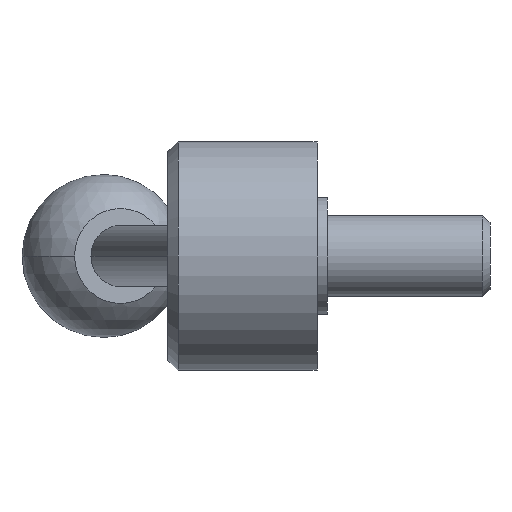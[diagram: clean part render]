
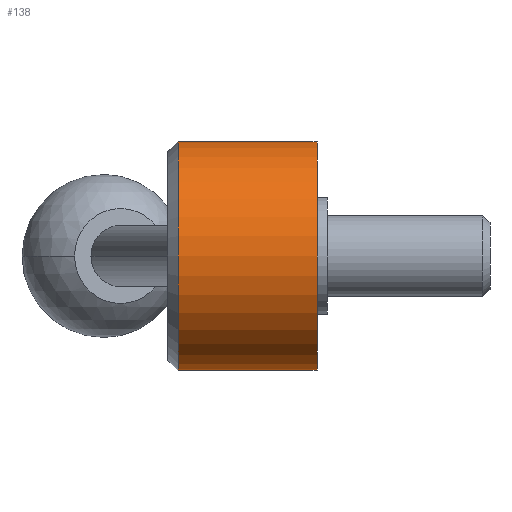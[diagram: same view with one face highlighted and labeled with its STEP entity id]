
A CAD part, left-side view. The second image highlights one B-rep face of the part: STEP entity #138.
In plain terms, the highlighted cylindrical face has radius 22.5 mm (diameter 45 mm), a partial arc.
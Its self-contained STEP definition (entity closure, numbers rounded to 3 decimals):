
#20 = CARTESIAN_POINT ( 'NONE',  ( 0., 0., -22.5 ) ) ;
#30 = ORIENTED_EDGE ( 'NONE', *, *, #500, .T. ) ;
#49 = DIRECTION ( 'NONE',  ( 0., -1., 0. ) ) ;
#55 = ORIENTED_EDGE ( 'NONE', *, *, #295, .F. ) ;
#76 = DIRECTION ( 'NONE',  ( 0., -1., 0. ) ) ;
#110 = VERTEX_POINT ( 'NONE', #433 ) ;
#138 = ADVANCED_FACE ( 'NONE', ( #296 ), #495, .T. ) ;
#156 = CARTESIAN_POINT ( 'NONE',  ( 0., 0., -22.5 ) ) ;
#232 = DIRECTION ( 'NONE',  ( 0., -1., 0. ) ) ;
#295 = EDGE_CURVE ( 'NONE', #466, #532, #714, .T. ) ;
#296 = FACE_OUTER_BOUND ( 'NONE', #380, .T. ) ;
#306 = VECTOR ( 'NONE', #49, 1000. ) ;
#323 = VECTOR ( 'NONE', #700, 1000. ) ;
#339 = CIRCLE ( 'NONE', #502, 22.5 ) ;
#380 = EDGE_LOOP ( 'NONE', ( #730, #476, #30, #55 ) ) ;
#399 = LINE ( 'NONE', #666, #306 ) ;
#432 = DIRECTION ( 'NONE',  ( 0., 0., 1. ) ) ;
#433 = CARTESIAN_POINT ( 'NONE',  ( 0., 27.3, -22.5 ) ) ;
#440 = CARTESIAN_POINT ( 'NONE',  ( 0., 0., 0. ) ) ;
#466 = VERTEX_POINT ( 'NONE', #806 ) ;
#474 = VERTEX_POINT ( 'NONE', #571 ) ;
#476 = ORIENTED_EDGE ( 'NONE', *, *, #496, .T. ) ;
#495 = CYLINDRICAL_SURFACE ( 'NONE', #536, 22.5 ) ;
#496 = EDGE_CURVE ( 'NONE', #474, #110, #339, .T. ) ;
#500 = EDGE_CURVE ( 'NONE', #110, #532, #818, .T. ) ;
#502 = AXIS2_PLACEMENT_3D ( 'NONE', #640, #76, #432 ) ;
#526 = DIRECTION ( 'NONE',  ( 0., -1., 0. ) ) ;
#532 = VERTEX_POINT ( 'NONE', #20 ) ;
#536 = AXIS2_PLACEMENT_3D ( 'NONE', #440, #232, #580 ) ;
#571 = CARTESIAN_POINT ( 'NONE',  ( 0., 27.3, 22.5 ) ) ;
#579 = DIRECTION ( 'NONE',  ( 0., 0., -1. ) ) ;
#580 = DIRECTION ( 'NONE',  ( 0., 0., -1. ) ) ;
#640 = CARTESIAN_POINT ( 'NONE',  ( 0., 27.3, 0. ) ) ;
#666 = CARTESIAN_POINT ( 'NONE',  ( 0., 0., 22.5 ) ) ;
#678 = AXIS2_PLACEMENT_3D ( 'NONE', #712, #526, #579 ) ;
#700 = DIRECTION ( 'NONE',  ( 0., -1., 0. ) ) ;
#712 = CARTESIAN_POINT ( 'NONE',  ( 0., 0., 0. ) ) ;
#714 = CIRCLE ( 'NONE', #678, 22.5 ) ;
#730 = ORIENTED_EDGE ( 'NONE', *, *, #801, .F. ) ;
#801 = EDGE_CURVE ( 'NONE', #474, #466, #399, .T. ) ;
#806 = CARTESIAN_POINT ( 'NONE',  ( 0., 0., 22.5 ) ) ;
#818 = LINE ( 'NONE', #156, #323 ) ;
